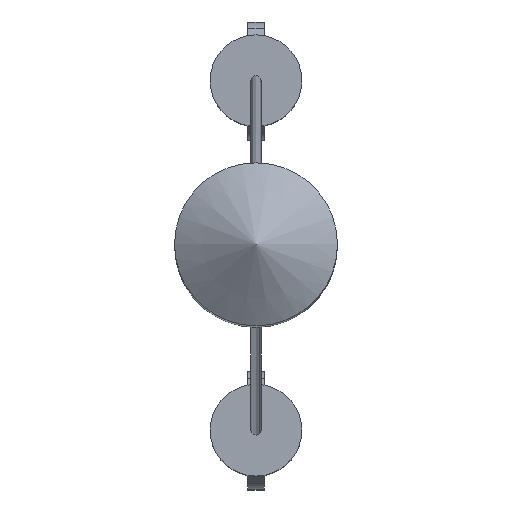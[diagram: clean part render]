
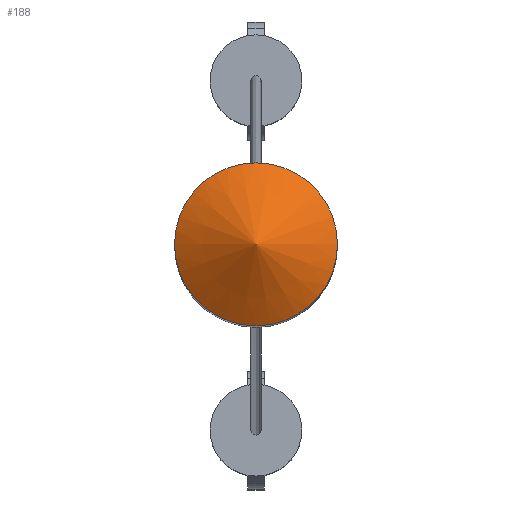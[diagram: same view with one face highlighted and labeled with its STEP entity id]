
A CAD part, top view. The second image highlights one B-rep face of the part: STEP entity #188.
In plain terms, the highlighted conical face has half-angle 60 degrees and reference radius 4 mm.
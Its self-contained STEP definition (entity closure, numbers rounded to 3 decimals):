
#188 = ADVANCED_FACE ( 'NONE', ( #473 ), #740, .T. ) ;
#431 = VERTEX_POINT ( 'NONE', #1221 ) ;
#473 = FACE_OUTER_BOUND ( 'NONE', #904, .T. ) ;
#480 = DIRECTION ( 'NONE',  ( 0., 0., 1. ) ) ;
#649 = CIRCLE ( 'NONE', #2066, 4. ) ;
#740 = CONICAL_SURFACE ( 'NONE', #1631, 4., 1.047 ) ;
#872 = DIRECTION ( 'NONE',  ( -1., 0., 0. ) ) ;
#904 = EDGE_LOOP ( 'NONE', ( #2160 ) ) ;
#1221 = CARTESIAN_POINT ( 'NONE',  ( 4., 7.176, 66.206 ) ) ;
#1229 = CARTESIAN_POINT ( 'NONE',  ( 0., 7.176, 66.206 ) ) ;
#1251 = CARTESIAN_POINT ( 'NONE',  ( 0., 7.176, 66.206 ) ) ;
#1608 = DIRECTION ( 'NONE',  ( 0., 0., -1. ) ) ;
#1631 = AXIS2_PLACEMENT_3D ( 'NONE', #1229, #1608, #872 ) ;
#2048 = DIRECTION ( 'NONE',  ( 1., 0., 0. ) ) ;
#2066 = AXIS2_PLACEMENT_3D ( 'NONE', #1251, #480, #2048 ) ;
#2160 = ORIENTED_EDGE ( 'NONE', *, *, #2301, .T. ) ;
#2301 = EDGE_CURVE ( 'NONE', #431, #431, #649, .T. ) ;
